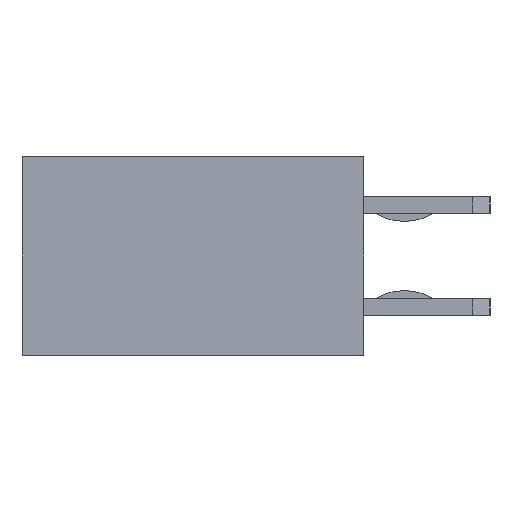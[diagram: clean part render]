
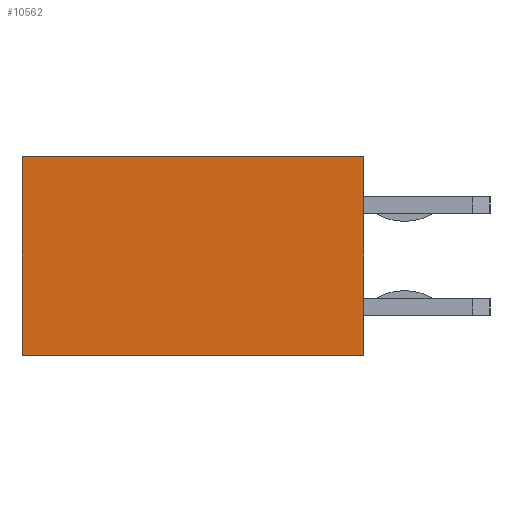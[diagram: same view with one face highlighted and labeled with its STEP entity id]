
A CAD part, left-side view. The second image highlights one B-rep face of the part: STEP entity #10562.
In plain terms, the highlighted planar face has unit normal (-1, 0, 0).
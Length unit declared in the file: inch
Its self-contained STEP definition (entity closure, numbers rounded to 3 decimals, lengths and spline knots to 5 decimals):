
#939=ORIENTED_EDGE('',*,*,#3696,.T.);
#940=ORIENTED_EDGE('',*,*,#3135,.F.);
#941=ORIENTED_EDGE('',*,*,#3737,.F.);
#942=ORIENTED_EDGE('',*,*,#3127,.T.);
#3127=EDGE_CURVE('',#4628,#4627,#5627,.T.);
#3135=EDGE_CURVE('',#4635,#4636,#5635,.T.);
#3696=EDGE_CURVE('',#4627,#4636,#6196,.T.);
#3737=EDGE_CURVE('',#4628,#4635,#6237,.T.);
#4627=VERTEX_POINT('',#14283);
#4628=VERTEX_POINT('',#14285);
#4635=VERTEX_POINT('',#14300);
#4636=VERTEX_POINT('',#14302);
#5627=LINE('',#14284,#7111);
#5635=LINE('',#14301,#7119);
#6196=LINE('',#15422,#7680);
#6237=LINE('',#15484,#7721);
#7111=VECTOR('',#11595,39.37008);
#7119=VECTOR('',#11605,39.37008);
#7680=VECTOR('',#12488,39.37008);
#7721=VECTOR('',#12571,39.37008);
#8698=EDGE_LOOP('',(#939,#940,#941,#942));
#9362=FACE_BOUND('',#8698,.T.);
#10026=PLANE('',#11132);
#10562=ADVANCED_FACE('',(#9362),#10026,.F.);
#11132=AXIS2_PLACEMENT_3D('',#15483,#12569,#12570);
#11595=DIRECTION('',(0.,-1.,0.));
#11605=DIRECTION('',(0.,-1.,0.));
#12488=DIRECTION('',(0.,0.,1.));
#12569=DIRECTION('',(1.,0.,0.));
#12570=DIRECTION('',(0.,0.,-1.));
#12571=DIRECTION('',(0.,0.,1.));
#14283=CARTESIAN_POINT('',(-1.01,0.,-0.0975));
#14284=CARTESIAN_POINT('',(-1.01,0.335,-0.0975));
#14285=CARTESIAN_POINT('',(-1.01,0.335,-0.0975));
#14300=CARTESIAN_POINT('',(-1.01,0.335,0.0975));
#14301=CARTESIAN_POINT('',(-1.01,0.335,0.0975));
#14302=CARTESIAN_POINT('',(-1.01,0.,0.0975));
#15422=CARTESIAN_POINT('',(-1.01,0.,-0.0975));
#15483=CARTESIAN_POINT('',(-1.01,0.335,-0.0975));
#15484=CARTESIAN_POINT('',(-1.01,0.335,-0.0975));
